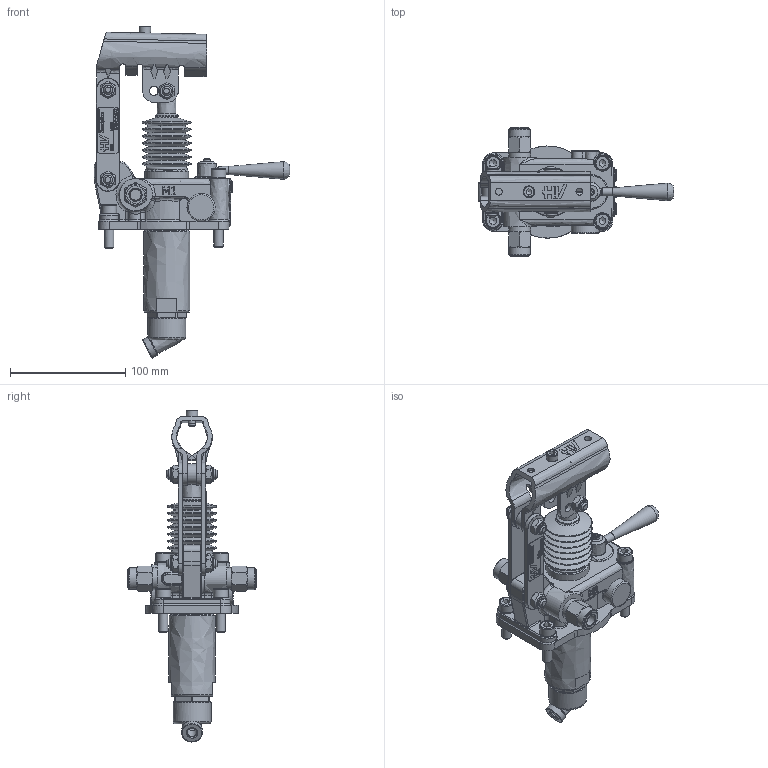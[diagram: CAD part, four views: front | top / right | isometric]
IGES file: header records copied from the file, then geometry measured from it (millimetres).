
Global section: file name: No Iges File Name specified; native system: Autodesk Inventor 2013; preprocessor: AutoDesk Inventor Iges Exporter R2013; author: christian.scardovi; date: 20240307.152423; units: millimetre
Bounding box: 170 x 112 x 288.31 mm (x, y, z)
Volume: 494676.9 mm3; surface area: 128262.1 mm2
Topology: 3 solids, 3 shells, 1523 faces, 3868 edges, 2454 vertices
Faces by surface type: bspline 1523
